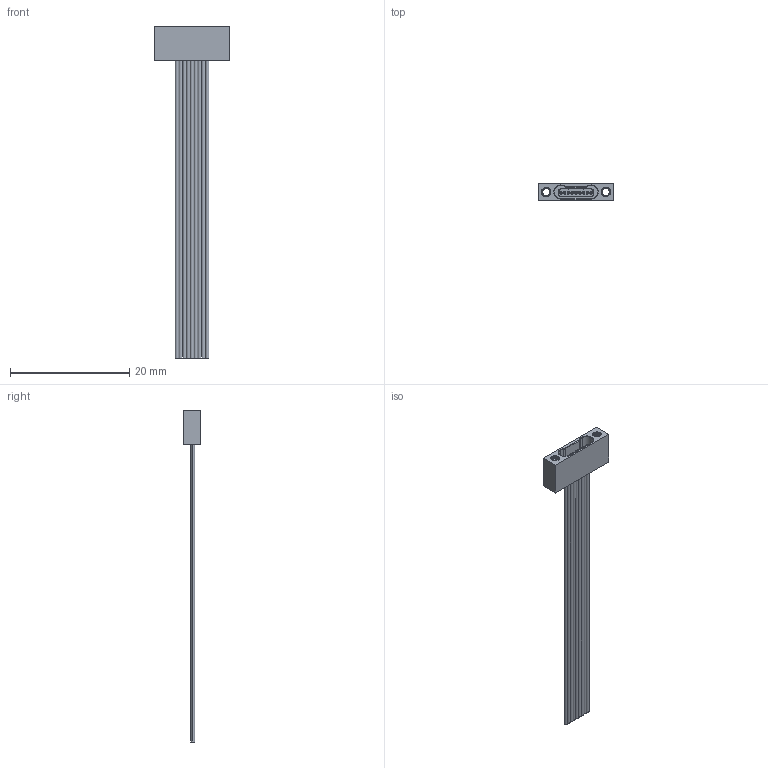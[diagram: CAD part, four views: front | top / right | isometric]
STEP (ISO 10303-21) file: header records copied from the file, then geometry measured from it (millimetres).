
FILE_DESCRIPTION (( 'STEP AP214' ), '1' );
FILE_NAME ('A55000-009 REV F.STEP', '2014-12-08T20:54:28', ( 'T' ), ( 'Microsoft' ), 'SwSTEP 2.0', 'SolidWorks 2014', '' );
FILE_SCHEMA (( 'AUTOMOTIVE_DESIGN' ));
Length unit declared in the file: inch
Products named in the file (1): A55000-009 REV F
Bounding box: 12.7 x 2.93 x 55.66 mm (x, y, z)
Volume: 291.4 mm3; surface area: 1327.7 mm2
Topology: 1 solids, 10 shells, 463 faces, 1116 edges, 722 vertices
Faces by surface type: plane 190, cylinder 170, bspline 54, torus 36, cone 13
Entity records: 18991 total; most frequent: CARTESIAN_POINT 7967, ORIENTED_EDGE 2228, DIRECTION 2118, EDGE_CURVE 1114, AXIS2_PLACEMENT_3D 772, VERTEX_POINT 722, VECTOR 574, LINE 574
